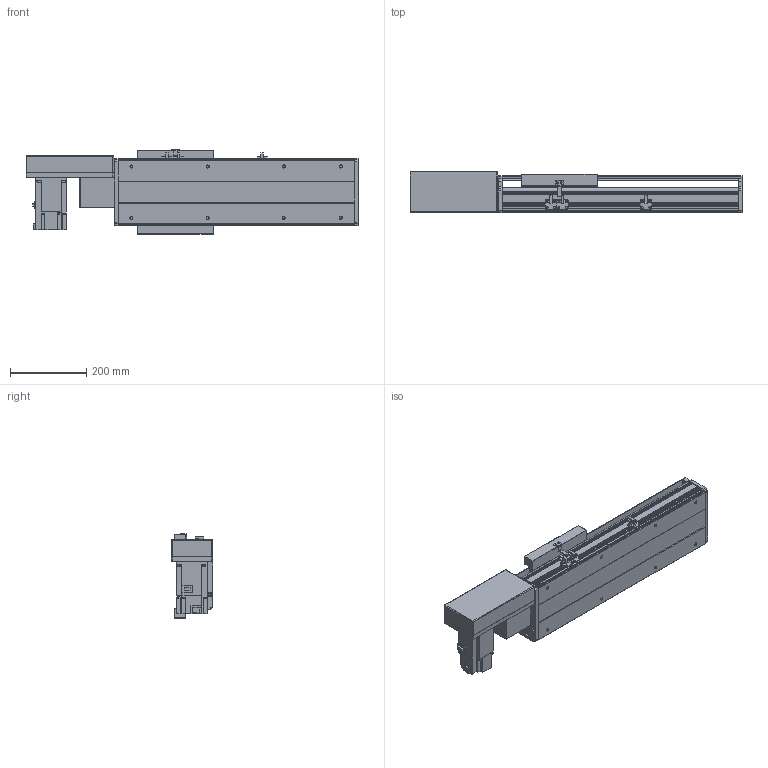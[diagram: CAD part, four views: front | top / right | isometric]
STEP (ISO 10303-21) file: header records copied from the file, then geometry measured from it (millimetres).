
FILE_DESCRIPTION(/* description */ ('STEP AP214'),/* implementation_level */ '2;1');
FILE_NAME(/* name */ 'PBS200-P40-S250-R-T75-C1-N(0)',/* time_stamp */ '2022-06-11T08:03:26+02:00',/* author */ ('License CC BY-ND 4.0'),/* organization */ ('CADENAS'),/* preprocessor_version */ 'ST-DEVELOPER v18.102',/* originating_system */ 'PARTsolutions',/* authorisation */ ' ');
FILE_SCHEMA (('AUTOMOTIVE_DESIGN {1 0 10303 214 3 1 1}'));
Length unit declared in the file: millimetre
Products named in the file (7): PBS200-P40-S250-R-T75-C1-N(0); PBS200_sensor; PBS200_plant; PBS200_sliser; T75-p1; PBS200T-R_motors; PBS200-S250()_body
Assembly tree (8 placements, depth 2):
  PBS200-P40-S250-R-T75-C1-N(0)
    PBS200_sensor  x3
    PBS200_plant
    PBS200_sliser
    T75-p1
    PBS200T-R_motors
    PBS200-S250()_body
Bounding box: 872 x 109 x 221 mm (x, y, z)
Volume: 6554079.8 mm3; surface area: 1081083 mm2
Topology: 8 solids, 8 shells, 896 faces, 2334 edges, 1524 vertices
Faces by surface type: plane 566, cylinder 290, cone 40
Full cylindrical faces by diameter (mm): 2.459 x6, 3.242 x4, 4.5 x6, 4.917 x4, 5 x6, 6 x7, 6.6 x8, 6.647 x12, 8 x6, 10 x4, 12 x8, 38 x2, 40 x1, 70 x1
Entity records: 24101 total; most frequent: DIRECTION 4231, CARTESIAN_POINT 4120, ORIENTED_EDGE 3934, EDGE_CURVE 1967, AXIS2_PLACEMENT_3D 1459, VERTEX_POINT 1348, LINE 1313, VECTOR 1313
